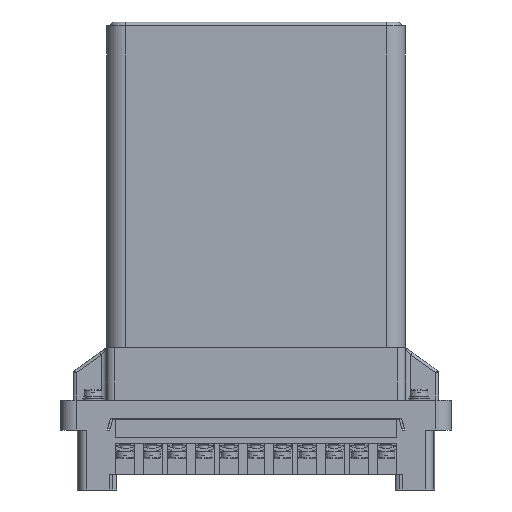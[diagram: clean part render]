
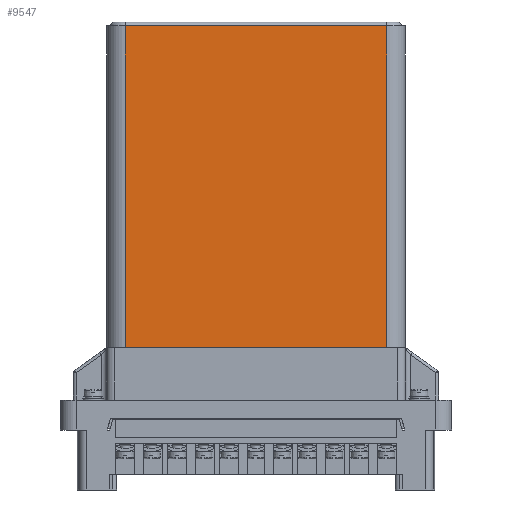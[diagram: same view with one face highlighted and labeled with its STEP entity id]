
A CAD part, left-side view. The second image highlights one B-rep face of the part: STEP entity #9547.
In plain terms, the highlighted planar face has unit normal (-1, 0, 0).
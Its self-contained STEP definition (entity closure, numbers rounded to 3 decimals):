
#9547=ADVANCED_FACE('',(#74994),#74996,.T.);
#74994=FACE_BOUND('',#74995,.T.);
#74995=EDGE_LOOP('',(#127093,#127094,#127095,#127096));
#74996=PLANE('',#74997);
#74997=AXIS2_PLACEMENT_3D('',#74998,#74999,#75000);
#74998=CARTESIAN_POINT('',(-32.15,50.15,31.5));
#74999=DIRECTION('',(-1.,0.,0.));
#75000=DIRECTION('',(0.,-1.,0.));
#127093=ORIENTED_EDGE('',*,*,#161066,.T.);
#127094=ORIENTED_EDGE('',*,*,#162358,.T.);
#127095=ORIENTED_EDGE('',*,*,#162359,.F.);
#127096=ORIENTED_EDGE('',*,*,#162360,.F.);
#161066=EDGE_CURVE('',#181018,#181016,#181019,.T.);
#162358=EDGE_CURVE('',#181016,#183523,#183525,.T.);
#162359=EDGE_CURVE('',#183526,#183523,#183527,.T.);
#162360=EDGE_CURVE('',#181018,#183526,#183528,.T.);
#181016=VERTEX_POINT('',#216453);
#181018=VERTEX_POINT('',#216458);
#181019=LINE('',#216459,#216460);
#183523=VERTEX_POINT('',#222219);
#183525=LINE('',#222224,#222225);
#183526=VERTEX_POINT('',#222227);
#183527=LINE('',#222228,#222229);
#183528=LINE('',#222231,#222232);
#216453=CARTESIAN_POINT('',(-32.15,-50.15,31.5));
#216458=CARTESIAN_POINT('',(-32.15,50.15,31.5));
#216459=CARTESIAN_POINT('',(-32.15,50.15,31.5));
#216460=VECTOR('',#216461,1.);
#216461=DIRECTION('',(0.,-1.,0.));
#222219=CARTESIAN_POINT('',(-32.15,-50.15,155.));
#222224=CARTESIAN_POINT('',(-32.15,-50.15,31.5));
#222225=VECTOR('',#222226,1.);
#222226=DIRECTION('',(0.,0.,1.));
#222227=CARTESIAN_POINT('',(-32.15,50.15,155.));
#222228=CARTESIAN_POINT('',(-32.15,50.15,155.));
#222229=VECTOR('',#222230,1.);
#222230=DIRECTION('',(0.,-1.,0.));
#222231=CARTESIAN_POINT('',(-32.15,50.15,31.5));
#222232=VECTOR('',#222233,1.);
#222233=DIRECTION('',(0.,0.,1.));
